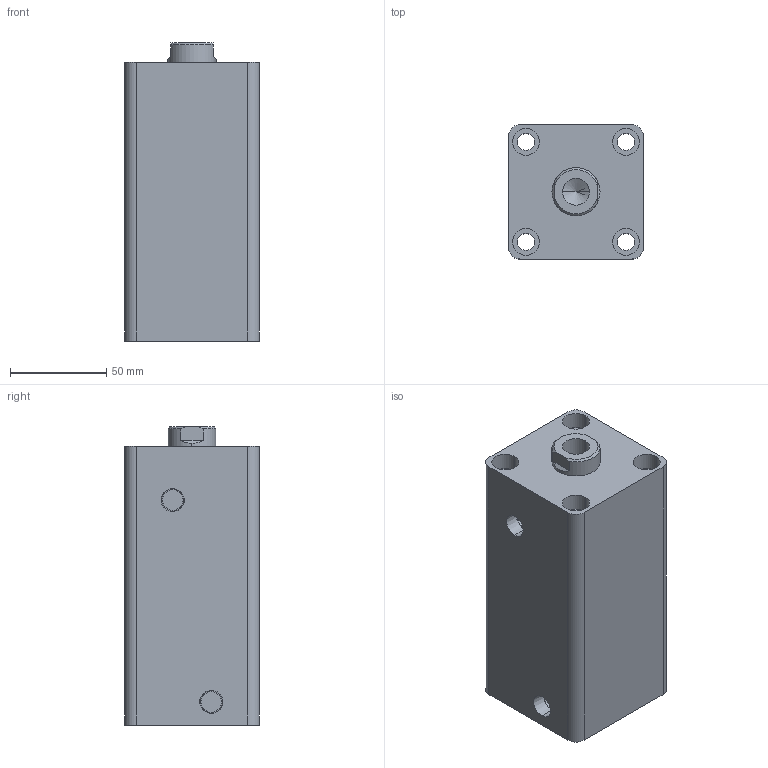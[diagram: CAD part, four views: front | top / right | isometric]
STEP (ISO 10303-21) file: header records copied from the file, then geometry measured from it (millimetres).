
FILE_DESCRIPTION (( 'STEP AP203' ), '1' );
FILE_NAME ('HTB-SD40-90N.STEP', '2019-10-07T06:57:36', ( '微软用户' ), ( '微软中国' ), 'SwSTEP 2.0', 'SolidWorks 2012', '' );
FILE_SCHEMA (( 'CONFIG_CONTROL_DESIGN' ));
Length unit declared in the file: millimetre
Products named in the file (3): HTB-SD40-90掛极; HTB-SD40-90N活塞杆; HTB-SD40-90N
Assembly tree (2 placements, depth 2):
  HTB-SD40-90N
    HTB-SD40-90掛极
    HTB-SD40-90N活塞杆
Bounding box: 70 x 70 x 155 mm (x, y, z)
Volume: 593157 mm3; surface area: 99310.3 mm2
Topology: 2 solids, 2 shells, 81 faces, 180 edges, 117 vertices
Faces by surface type: cylinder 42, plane 27, cone 8, torus 4
Entity records: 2603 total; most frequent: DIRECTION 444, CARTESIAN_POINT 409, ORIENTED_EDGE 356, AXIS2_PLACEMENT_3D 188, EDGE_CURVE 178, VERTEX_POINT 117, EDGE_LOOP 105, CIRCLE 102
